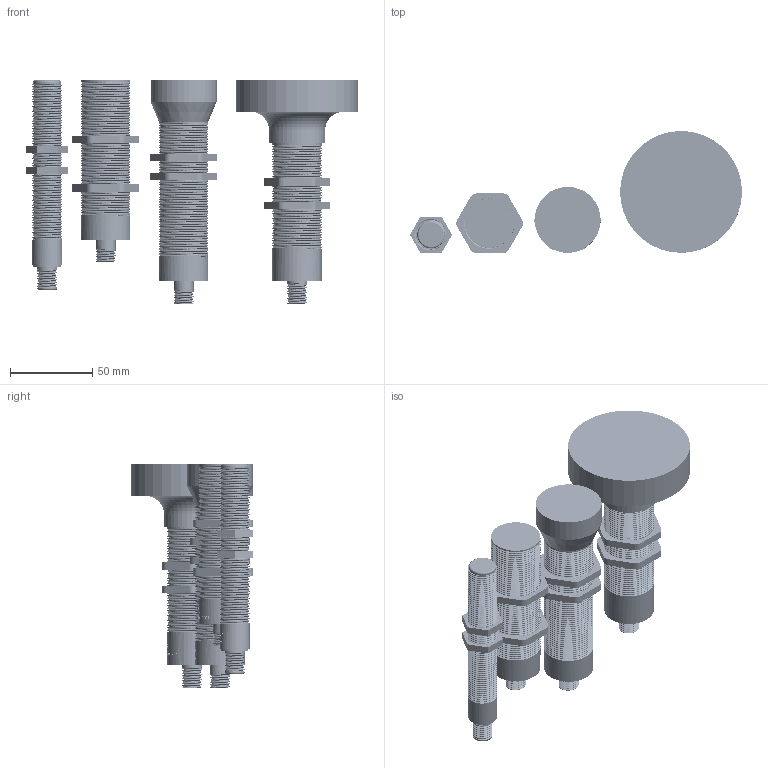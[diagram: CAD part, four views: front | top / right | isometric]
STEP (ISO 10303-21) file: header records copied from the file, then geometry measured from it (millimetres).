
FILE_DESCRIPTION((''),'2;1');
FILE_NAME('ASM0005_ASM','2026-01-04T08:37:14',('28740194'),(''),'CREO PARAMETRIC BY PTC INC, 2024063','CREO PARAMETRIC BY PTC INC, 2024063','');
FILE_SCHEMA(('CONFIG_CONTROL_DESIGN'));
Products named in the file (11): M18; M1800; M1800_ASM; M30; M30000; M30-TIPY100_ASM; M30-TIPY2; M30-TIPY200_ASM; M30-TIPY3; M30-TIPY300_ASM; ASM0005_ASM
Assembly tree (16 placements, depth 3):
  ASM0005_ASM
    M1800_ASM
      M18
      M1800  x2
    M30-TIPY100_ASM
      M30
      M30000  x2
    M30-TIPY200_ASM
      M30-TIPY2
      M30000  x2
    M30-TIPY300_ASM
      M30-TIPY3
      M30000  x2
Bounding box: 201.53 x 74.02 x 135.5 mm (x, y, z)
Volume: 134592.4 mm3; surface area: 87448.3 mm2
Topology: 10 solids, 16 shells, 3419 faces, 9695 edges, 6419 vertices
Faces by surface type: bspline 2325, cylinder 691, plane 395, torus 6, cone 2
Entity records: 223898 total; most frequent: CARTESIAN_POINT 155878, ORIENTED_EDGE 18524, EDGE_CURVE 9290, DIRECTION 6517, VERTEX_POINT 6153, B_SPLINE_CURVE_WITH_KNOTS 5613, EDGE_LOOP 3389, FACE_OUTER_BOUND 3268
